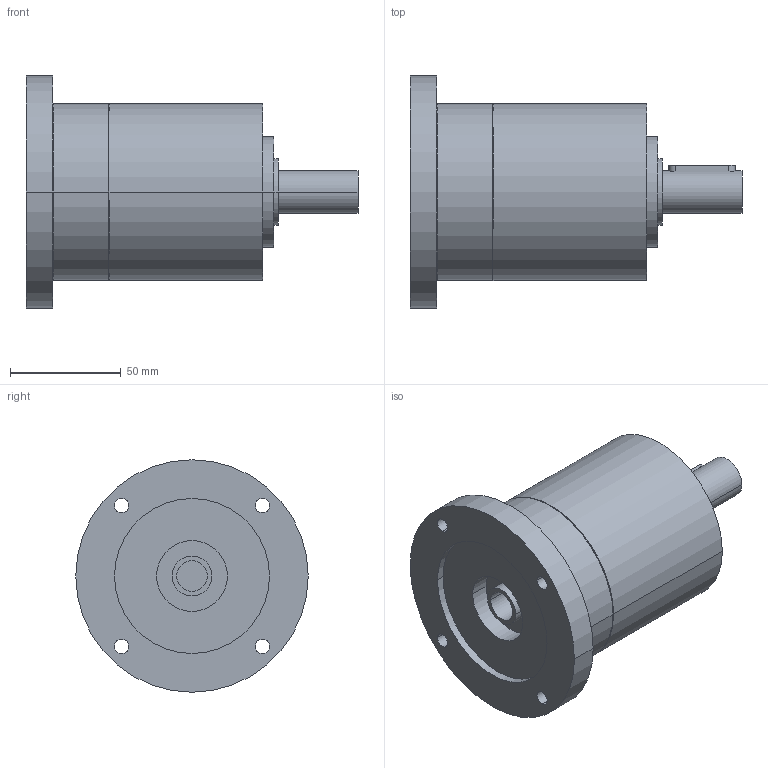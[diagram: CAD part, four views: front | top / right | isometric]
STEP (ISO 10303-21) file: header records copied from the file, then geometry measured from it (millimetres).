
FILE_DESCRIPTION(('CoCreate Modeling STEP Export'),'2;1');
FILE_NAME('GPR100_ig-3-4-5-6_19_B14_14_P12.stp','2014-08-26T10:07:09',(''),(''),'CoCreate Modeling STEP processor for AP214 (Solid Model)','CoCreate Modeling 16.00C 25-Feb-2009 (C) Parametric Technology GmbH','');
FILE_SCHEMA(('AUTOMOTIVE_DESIGN { 1 0 10303 214 1 1 1 1 }'));
Length unit declared in the file: millimetre
Products named in the file (2): GPR100_ig-3-4-5-6_19_B14_14_P12
Assembly tree (1 placements, depth 2):
  GPR100_ig-3-4-5-6_19_B14_14_P12
    GPR100_ig-3-4-5-6_19_B14_14_P12
Bounding box: 150 x 105 x 105 mm (x, y, z)
Volume: 575026.7 mm3; surface area: 54483.6 mm2
Topology: 1 solids, 1 shells, 76 faces, 204 edges, 146 vertices
Faces by surface type: cylinder 48, plane 22, cone 6
Entity records: 2032 total; most frequent: ORIENTED_EDGE 404, CARTESIAN_POINT 371, DIRECTION 262, EDGE_CURVE 202, VERTEX_POINT 146, EDGE_LOOP 102, AXIS2_PLACEMENT_3D 101, FACE_OUTER_BOUND 76
